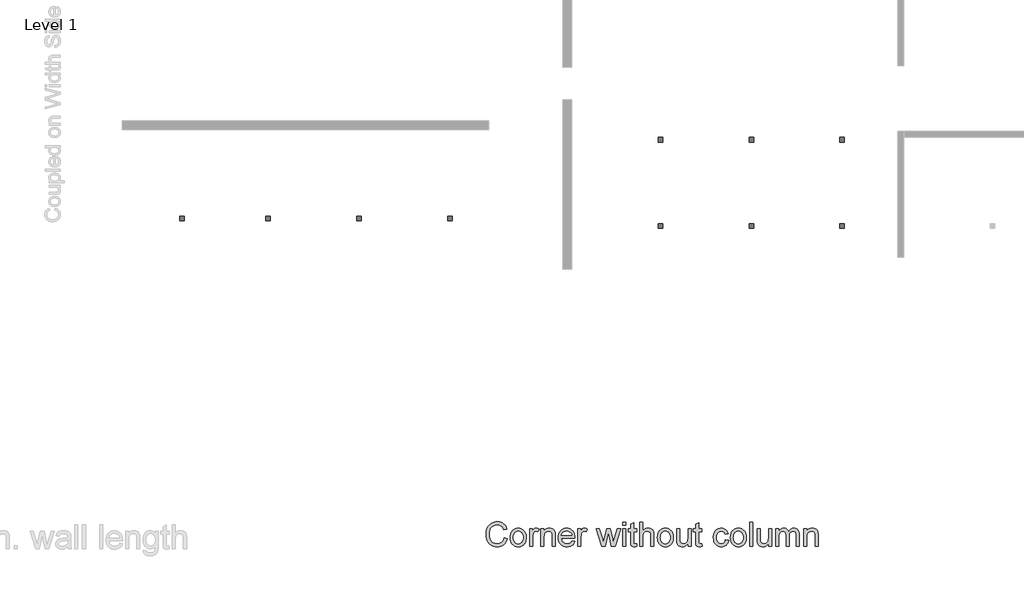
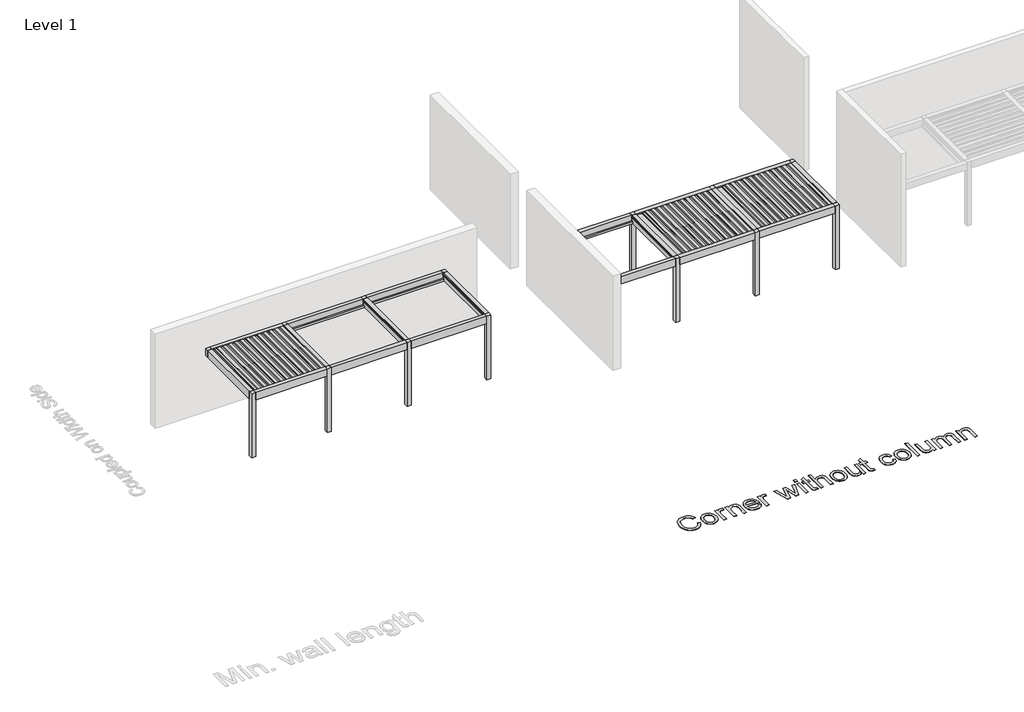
# One storey, part 62 of 80: 3 proxies.
"""IFC4 building model written with IfcOpenShell, lengths in millimetres."""

from ifc_helpers import new_model, si_unit, origin, origin_with_axes, place, context, project, spatial, polyline, outline, extrude, transform, mapped, element, save
from components import generic_models_a30ff683, generic_models_b130cb2a

model = new_model("IFC4")

# Units and contexts
model_context = context("Model", 3, world=origin())
ifc_project = project(units=[si_unit("LENGTHUNIT", "METRE", prefix="MILLI")], contexts=[model_context])

# Site, building, storey
site = spatial("IfcSite", under=ifc_project)
building = spatial("IfcBuilding", under=site)
storey = spatial("IfcBuildingStorey", under=building, Name="Level 1", Elevation=0.0)

# Proxies
placement = place(None, origin())
generic_models_shape = generic_models_a30ff683(model_context)
element("IfcBuildingElementProxy", 1, Name="Renson_Amani_Patio_Cover : Renson_Amani_Patio_Cover", ObjectType="Renson_Amani_Patio_Cover : Renson_Amani_Patio_Cover", at=placement, inside=storey, context=model_context, shape_type="MappedRepresentation", body=[
    mapped(generic_models_shape, transform((177753.165057, 45234.0685101, 0.0), x_axis=(1.0, 0.0, 0.0), y_axis=(0.0, 1.0, 0.0), z_axis=(0.0, 0.0, 1.0))),
])
generic_models_2_shape = generic_models_b130cb2a(model_context)
element("IfcBuildingElementProxy", 2, Name="Renson_Amani_Patio_Cover : Renson_Amani_Patio_Cover", ObjectType="Renson_Amani_Patio_Cover : Renson_Amani_Patio_Cover", at=placement, inside=storey, context=model_context, shape_type="MappedRepresentation", body=[
    mapped(generic_models_2_shape, transform((190710.3328818, 44984.0685101, 0.0), x_axis=(1.0, 0.0, 0.0), y_axis=(0.0, 1.0, 0.0), z_axis=(0.0, 0.0, 1.0))),
])
element("IfcBuildingElementProxy", 3, Name="800mm Arial", ObjectType="800mm Arial", at=placement, inside=storey, context=model_context, shape_type="SweptSolid", body=[
    extrude(outline(polyline([(186974.516614, 33265.2752988), (187074.4402013, 33239.513749), (187054.6677238, 33177.3725483), (187028.3328819, 33123.0744711), (186995.4356755, 33076.6195172), (186955.9761046, 33038.0076867), (186910.8446016, 33007.6537015), (186860.9315987, 32985.9722834), (186806.2370961, 32972.9634326), (186746.7610937, 32968.627149), (186685.8274657, 32971.9083313), (186630.8585148, 32981.751878), (186581.8542409, 32998.1577893), (186538.814644, 33021.126065), (186501.1481355, 33050.3151695), (186468.2631268, 33085.3835672), (186440.1596179, 33126.3312579), (186416.8376087, 33173.1582418), (186398.5227569, 33223.8396999), (186385.4407198, 33276.3508136), (186377.5914976, 33330.6915828), (186374.9750902, 33386.8620076), (186377.9330333, 33447.1308607), (186386.8068626, 33503.4232625), (186401.5965782, 33555.7392129), (186422.3021799, 33604.078712), (186448.4601551, 33647.6428101), (186479.6069911, 33685.6325577), (186515.7426878, 33718.0479549), (186556.8672452, 33744.8890015), (186601.5840263, 33765.9361389), (186648.4963941, 33780.9698085), (186697.6043485, 33789.9900103), (186748.9078895, 33792.9967442), (186806.0602294, 33789.1056768), (186858.4676626, 33777.4324745), (186906.1301891, 33757.9771374), (186949.047809, 33730.7396654), (186986.5130554, 33696.4397231), (187017.8184615, 33655.7969749), (187042.9640273, 33608.8114209), (187061.9497528, 33555.4830611), (186962.0261656, 33531.6731438), (186946.291128, 33570.9680457), (186927.3846875, 33604.5422247), (186905.3068441, 33632.3956807), (186880.0575978, 33654.5284138), (186851.4905762, 33671.3917389), (186819.4594067, 33683.4369711), (186783.9640895, 33690.6641105), (186745.0046244, 33693.0731569), (186700.1780639, 33690.4018598), (186659.1815824, 33682.3879686), (186622.0151797, 33669.0314832), (186588.678856, 33650.3324037), (186559.5934319, 33627.1323716), (186535.1797283, 33600.2730285), (186515.4377452, 33569.7543742), (186500.3674825, 33535.576409), (186489.2248803, 33499.288241), (186481.2658787, 33462.4389786), (186476.4904778, 33425.0286219), (186474.8986775, 33387.0571708), (186476.7832227, 33339.3397546), (186482.4368583, 33294.7449505), (186491.8595843, 33253.2727585), (186505.0514006, 33214.9231786), (186522.2257672, 33180.4585673), (186543.5961438, 33150.6412811), (186569.1625304, 33125.4713198), (186598.924927, 33104.9486836), (186631.4379057, 33089.0245817), (186665.2560387, 33077.6502232), (186700.379326, 33070.825608), (186736.8077676, 33068.5507363), (186780.2498887, 33071.648953), (186820.2156643, 33080.9436031), (186856.7050944, 33096.4346866), (186889.718179, 33118.1222035), (186918.4742651, 33145.9085721), (186942.1926996, 33179.6962109), (186960.8734826, 33219.4851198), (186974.516614, 33265.2752988)])), origin_with_axes(), (0.0, 0.0, 1.0), 5.0),
    extrude(outline(polyline([(187174.3637885, 33274.6431351), (187179.7673712, 33350.6714212), (187186.5218495, 33384.7426566), (187195.9781192, 33416.1852868), (187208.1361802, 33444.999312), (187222.9960325, 33471.184732), (187240.5576762, 33494.741547), (187260.8211111, 33515.6697568), (187298.9023416, 33544.1026037), (187340.9356279, 33564.4117801), (187386.9209702, 33576.5972859), (187436.8583684, 33580.6591212), (187491.9858895, 33575.7129524), (187541.831805, 33560.8744461), (187586.3961148, 33536.1436022), (187625.678819, 33501.5204207), (187657.7404828, 33458.1758812), (187680.6416711, 33407.2809633), (187694.3823842, 33348.8356668), (187698.9626218, 33282.8399919), (187696.937803, 33229.3530619), (187690.8633467, 33181.8917975), (187680.7392528, 33140.4561986), (187666.5655213, 33105.0462653), (187648.5190189, 33074.4605237), (187626.7766124, 33047.4975), (187601.3383017, 33024.1571943), (187572.2040868, 33004.4396066), (187540.5083542, 32988.7716564), (187507.3854902, 32977.5802634), (187472.835495, 32970.8654276), (187436.8583684, 32968.627149), (187380.9257989, 32973.5550213), (187330.6163707, 32988.3386379), (187285.9300839, 33012.9779991), (187246.8669383, 33047.4731046), (187215.1468103, 33091.2384649), (187192.489576, 33143.68859), (187178.8952354, 33204.8234801), (187174.3637885, 33274.6431351)]), holes=[polyline([(187274.2873758, 33274.8382984), (187277.1782316, 33226.3707234), (187285.8507988, 33184.4045244), (187300.3050775, 33148.9397014), (187320.5410676, 33119.9762544), (187345.1560333, 33097.4775902), (187372.7472387, 33081.4071158), (187403.3146837, 33071.7648312), (187436.8583684, 33068.5507363), (187470.2312853, 33071.7831278), (187500.6767533, 33081.4803021), (187528.1947725, 33097.6422592), (187552.7853428, 33120.2689993), (187573.0213329, 33149.5190923), (187587.4756116, 33185.5511086), (187596.1481788, 33228.3650479), (187599.0390345, 33277.9609105), (187596.1298823, 33324.8915748), (187587.4024254, 33365.7599805), (187572.8566639, 33400.5661275), (187552.4925979, 33429.3100158), (187527.8105448, 33451.80868), (187500.3108222, 33467.8791544), (187469.9934301, 33477.521439), (187436.8583684, 33480.7355339), (187403.3146837, 33477.5336367), (187372.7472387, 33467.9279452), (187345.1560333, 33451.9184593), (187320.5410676, 33429.5051791), (187300.3050775, 33400.627116), (187285.8507988, 33365.2232815), (187277.1782316, 33323.2936756), (187274.2873758, 33274.8382984)])]), origin_with_axes(), (0.0, 0.0, 1.0), 5.0),
    extrude(outline(polyline([(187811.3766575, 32981.1175974), (187811.3766575, 33568.1686728), (187898.8097964, 33568.1686728), (187898.8097964, 33481.3210237), (187931.1093154, 33531.6731438), (187946.307654, 33549.0914645), (187960.871712, 33561.3379588), (187990.7316902, 33575.8288306), (188023.323954, 33580.6591212), (188048.1096876, 33578.731884), (188073.0905844, 33572.9501726), (188098.2666445, 33563.3139868), (188123.6378678, 33549.8233267), (188090.264951, 33460.243392), (188055.1355648, 33475.6124984), (188020.0061787, 33480.7355339), (187990.1705958, 33475.8076617), (187963.5064159, 33461.024045), (187941.9652715, 33437.5068726), (187927.4987951, 33406.3783332), (187915.3498824, 33350.5616419), (187911.3002448, 33289.6707059), (187911.3002448, 32981.1175974), (187811.3766575, 32981.1175974)])), origin_with_axes(), (0.0, 0.0, 1.0), 5.0),
    extrude(outline(polyline([(188186.0901099, 32981.1175974), (188186.0901099, 33568.1686728), (188286.0136972, 33568.1686728), (188286.0136972, 33486.2001051), (188302.4988935, 33508.338937), (188320.7283614, 33527.5259246), (188340.7021009, 33543.761068), (188362.4201121, 33557.0443672), (188385.8823948, 33567.3758221), (188411.0889491, 33574.7554327), (188466.7348726, 33580.6591212), (188515.9891995, 33575.9020168), (188561.0963071, 33561.6307037), (188598.7140248, 33539.6260465), (188625.5001817, 33511.66891), (188643.67476, 33477.8324805), (188655.4577416, 33438.189944), (188659.4097975, 33400.2794814), (188660.7271495, 33341.5841321), (188660.7271495, 32981.1175974), (188560.8035622, 32981.1175974), (188560.8035622, 33328.1178674), (188557.9249042, 33379.7873395), (188549.2889301, 33416.5268225), (188533.3587293, 33442.8494667), (188508.5973911, 33463.2684225), (188476.8589666, 33476.368756), (188439.9975065, 33480.7355339), (188409.655719, 33478.2837955), (188381.472925, 33470.9285803), (188355.4491245, 33458.6698882), (188331.5843176, 33441.5077194), (188311.6471711, 33417.4904411), (188297.4063523, 33384.6664209), (188288.861861, 33343.0356588), (188286.0136972, 33292.5981547), (188286.0136972, 32981.1175974), (188186.0901099, 32981.1175974)])), origin_with_axes(), (0.0, 0.0, 1.0), 5.0),
    extrude(outline(polyline([(189209.1359001, 33155.9838752), (189307.1078548, 33143.4934268), (189292.0863829, 33104.2534145), (189271.8077008, 33069.672925), (189246.2718085, 33039.7519583), (189215.4787059, 33014.4905143), (189179.7455335, 32994.425292), (189139.3894313, 32980.0929903), (189094.4103996, 32971.4936094), (189044.8084382, 32968.627149), (188982.8075112, 32973.5733178), (188927.5641119, 32988.4118241), (188879.0782404, 33013.1426681), (188837.3498966, 33047.7658495), (188803.7940142, 33091.31775), (188779.8255268, 33142.8347508), (188765.4444343, 33202.316852), (188760.6507368, 33269.7640537), (188765.4932251, 33339.4983248), (188780.02069, 33400.9625528), (188804.2331315, 33454.1567379), (188819.9712185, 33477.6525643), (188838.1305496, 33499.08088), (188879.7491141, 33534.7713605), (188927.1249946, 33560.2645609), (188980.2581911, 33575.5604811), (189039.1487037, 33580.6591212), (189096.1424735, 33575.5726788), (189147.6838697, 33560.3133517), (189193.7728925, 33534.8811399), (189234.4095418, 33499.2760433), (189267.5811965, 33454.4494828), (189291.2752356, 33401.3528794), (189305.4916591, 33339.9862329), (189310.2304669, 33270.3495435), (189309.6449772, 33243.4170141), (188860.5743241, 33243.4170141), (188866.3621344, 33203.5427213), (188877.8706677, 33168.6206961), (188895.0999239, 33138.6509385), (188918.0499031, 33113.6334486), (188945.4520441, 33093.909762), (188976.0377857, 33079.8214144), (189009.8071279, 33071.3684058), (189046.7600707, 33068.5507363), (189099.9420581, 33073.7713534), (189144.7320255, 33089.4332048), (189163.9800016, 33101.4235473), (189181.1299728, 33116.5121066), (189196.181939, 33134.6988825), (189209.1359001, 33155.9838752)]), holes=[polyline([(188860.5743241, 33343.3406014), (189210.3068796, 33343.3406014), (189205.1716465, 33371.6148782), (189196.7918241, 33396.1322622), (189185.1674127, 33416.8927536), (189170.2984121, 33433.8963524), (189143.0487424, 33454.3884943), (189112.04218, 33469.0257385), (189077.278725, 33477.8080851), (189038.7583772, 33480.7355339), (189003.6228922, 33478.3996737), (188971.4026584, 33471.392093), (188942.0976756, 33459.7127919), (188915.7079441, 33443.3617703), (188893.5630133, 33423.0952859), (188876.9924331, 33399.6695963), (188865.9962033, 33373.0847014), (188860.5743241, 33343.3406014)])]), origin_with_axes(), (0.0, 0.0, 1.0), 5.0),
    extrude(outline(polyline([(189410.1540542, 32981.1175974), (189410.1540542, 33568.1686728), (189497.5871931, 33568.1686728), (189497.5871931, 33481.3210237), (189529.886712, 33531.6731438), (189545.0850506, 33549.0914645), (189559.6491086, 33561.3379588), (189589.5090869, 33575.8288306), (189622.1013507, 33580.6591212), (189646.8870843, 33578.731884), (189671.8679811, 33572.9501726), (189697.0440412, 33563.3139868), (189722.4152645, 33549.8233267), (189689.0423477, 33460.243392), (189653.9129615, 33475.6124984), (189618.7835753, 33480.7355339), (189588.9479925, 33475.8076617), (189562.2838126, 33461.024045), (189540.7426682, 33437.5068726), (189526.2761918, 33406.3783332), (189514.1272791, 33350.5616419), (189510.0776415, 33289.6707059), (189510.0776415, 32981.1175974), (189410.1540542, 32981.1175974)])), origin_with_axes(), (0.0, 0.0, 1.0), 5.0),
    extrude(outline(polyline([(190194.5151818, 32981.1175974), (190015.9408022, 33568.1686728), (190119.7676546, 33568.1686728), (190221.0573847, 33225.6571577), (190251.3076894, 33103.289796), (190276.093423, 33221.1684029), (190356.6958479, 33568.1686728), (190475.7454343, 33568.1686728), (190555.9575327, 33222.1442191), (190578.0109807, 33115.3899179), (190609.6274282, 33227.9991168), (190711.1123216, 33568.1686728), (190815.3295005, 33568.1686728), (190635.3889781, 32981.1175974), (190514.5829224, 32981.1175974), (190437.8837626, 33325.3855818), (190415.6351514, 33432.7253728), (190316.6873803, 32981.1175974), (190194.5151818, 32981.1175974)])), origin_with_axes(), (0.0, 0.0, 1.0), 5.0),
    extrude(outline(polyline([(190884.0269668, 32981.1175974), (190884.0269668, 33568.1686728), (190983.9505541, 33568.1686728), (190983.9505541, 32981.1175974), (190884.0269668, 32981.1175974)])), origin_with_axes(), (0.0, 0.0, 1.0), 5.0),
    extrude(outline(polyline([(190884.0269668, 33680.5827085), (190884.0269668, 33780.5062958), (190983.9505541, 33780.5062958), (190983.9505541, 33680.5827085), (190884.0269668, 33680.5827085)])), origin_with_axes(), (0.0, 0.0, 1.0), 5.0),
    extrude(outline(polyline([(191346.173558, 33064.4523079), (191358.6640064, 32978.1901486), (191319.0946562, 32971.0178989), (191283.9164792, 32968.627149), (191235.955109, 32972.7743682), (191200.1914422, 32985.2160258), (191174.9178005, 33004.3908158), (191158.4265053, 33028.737432), (191149.3514139, 33070.5511597), (191146.3263834, 33142.127284), (191146.3263834, 33468.2450855), (191071.383693, 33468.2450855), (191071.383693, 33568.1686728), (191146.3263834, 33568.1686728), (191146.3263834, 33710.8330132), (191246.2499707, 33769.5771534), (191246.2499707, 33568.1686728), (191346.173558, 33568.1686728), (191346.173558, 33468.2450855), (191246.2499707, 33468.2450855), (191246.2499707, 33145.0547328), (191247.5673227, 33112.1697241), (191251.5193787, 33093.5316331), (191258.4232788, 33083.212376), (191268.5961636, 33075.2838687), (191283.0138492, 33070.2340194), (191302.6521518, 33068.5507363), (191346.173558, 33064.4523079)])), origin_with_axes(), (0.0, 0.0, 1.0), 5.0),
    extrude(outline(polyline([(191446.0971453, 32981.1175974), (191446.0971453, 33780.5062958), (191546.0207326, 33780.5062958), (191546.0207326, 33486.5904316), (191582.7236225, 33527.7454833), (191623.9396627, 33557.1419488), (191669.6688533, 33574.7798281), (191719.9111941, 33580.6591212), (191751.1495128, 33579.0551232), (191780.2654311, 33574.2431291), (191807.258949, 33566.2231391), (191832.1300665, 33554.995153), (191854.244503, 33540.9372997), (191872.9679779, 33524.4277079), (191888.3004913, 33505.4663778), (191900.242043, 33484.0533093), (191909.2073551, 33458.8650515), (191915.6111495, 33428.5781536), (191920.734185, 33352.7084377), (191920.734185, 32981.1175974), (191820.8105977, 32981.1175974), (191820.8105977, 33342.3647851), (191818.822372, 33376.103633), (191812.857695, 33404.9146088), (191802.9165666, 33428.7977123), (191788.9989869, 33447.7529436), (191771.4342938, 33462.1828268), (191750.5518253, 33472.4898863), (191726.3515815, 33478.674122), (191698.8335624, 33480.7355339), (191656.6051128, 33475.1733811), (191616.9625763, 33458.4869227), (191599.1661269, 33446.3746031), (191584.1263584, 33432.2862555), (191571.843271, 33416.2218799), (191562.3168645, 33398.1814764), (191550.0947656, 33352.8548101), (191546.0207326, 33292.9884812), (191546.0207326, 32981.1175974), (191446.0971453, 32981.1175974)])), origin_with_axes(), (0.0, 0.0, 1.0), 5.0),
    extrude(outline(polyline([(192033.1482207, 33274.6431351), (192038.5518033, 33350.6714212), (192045.3062816, 33384.7426566), (192054.7625513, 33416.1852868), (192066.9206123, 33444.999312), (192081.7804646, 33471.184732), (192099.3421083, 33494.741547), (192119.6055433, 33515.6697568), (192157.6867737, 33544.1026037), (192199.72006, 33564.4117801), (192245.7054023, 33576.5972859), (192295.6428006, 33580.6591212), (192350.7703216, 33575.7129524), (192400.6162371, 33560.8744461), (192445.1805469, 33536.1436022), (192484.4632512, 33501.5204207), (192516.5249149, 33458.1758812), (192539.4261032, 33407.2809633), (192553.1668163, 33348.8356668), (192557.7470539, 33282.8399919), (192555.7222352, 33229.3530619), (192549.6477788, 33181.8917975), (192539.5236849, 33140.4561986), (192525.3499534, 33105.0462653), (192507.303451, 33074.4605237), (192485.5610445, 33047.4975), (192460.1227338, 33024.1571943), (192430.9885189, 33004.4396066), (192399.2927863, 32988.7716564), (192366.1699224, 32977.5802634), (192331.6199271, 32970.8654276), (192295.6428006, 32968.627149), (192239.710231, 32973.5550213), (192189.4008028, 32988.3386379), (192144.714516, 33012.9779991), (192105.6513704, 33047.4731046), (192073.9312424, 33091.2384649), (192051.2740081, 33143.68859), (192037.6796675, 33204.8234801), (192033.1482207, 33274.6431351)]), holes=[polyline([(192133.071808, 33274.8382984), (192135.9626637, 33226.3707234), (192144.6352309, 33184.4045244), (192159.0895096, 33148.9397014), (192179.3254997, 33119.9762544), (192203.9404654, 33097.4775902), (192231.5316708, 33081.4071158), (192262.0991159, 33071.7648312), (192295.6428006, 33068.5507363), (192329.0157174, 33071.7831278), (192359.4611854, 33081.4803021), (192386.9792046, 33097.6422592), (192411.5697749, 33120.2689993), (192431.805765, 33149.5190923), (192446.2600437, 33185.5511086), (192454.9326109, 33228.3650479), (192457.8234667, 33277.9609105), (192454.9143144, 33324.8915748), (192446.1868575, 33365.7599805), (192431.641096, 33400.5661275), (192411.27703, 33429.3100158), (192386.5949769, 33451.80868), (192359.0952543, 33467.8791544), (192328.7778622, 33477.521439), (192295.6428006, 33480.7355339), (192262.0991159, 33477.5336367), (192231.5316708, 33467.9279452), (192203.9404654, 33451.9184593), (192179.3254997, 33429.5051791), (192159.0895096, 33400.627116), (192144.6352309, 33365.2232815), (192135.9626637, 33323.2936756), (192133.071808, 33274.8382984)])]), origin_with_axes(), (0.0, 0.0, 1.0), 5.0),
    extrude(outline(polyline([(193044.874542, 32981.1175974), (193044.874542, 33082.017001), (193027.5416053, 33055.4412545), (193008.7205487, 33032.4089408), (192988.4113724, 33012.92006), (192966.6140762, 32996.974612), (192943.3286601, 32984.572597), (192918.5551243, 32975.7140148), (192892.2934686, 32970.3988655), (192864.5436931, 32968.627149), (192815.874856, 32973.6038121), (192770.5725851, 32988.5338012), (192732.5645409, 33010.9775757), (192705.7783839, 33038.4955948), (192687.7501781, 33071.9173025), (192676.0159873, 33112.0721425), (192671.6248141, 33149.9338143), (192670.1610896, 33204.9698526), (192670.1610896, 33568.1686728), (192770.0846769, 33568.1686728), (192770.0846769, 33252.0041974), (192771.5971922, 33188.7713023), (192776.1347379, 33150.1289775), (192782.1177115, 33132.1190683), (192790.6987959, 33116.1461755), (192801.8779912, 33102.2102992), (192815.6552973, 33090.3114394), (192831.6159924, 33080.7911318), (192849.3453545, 33073.9909121), (192890.1100796, 33068.5507363), (192933.2167639, 33074.1128891), (192973.5423718, 33090.7993476), (192991.5888741, 33102.9299637), (193006.7933116, 33117.073201), (193019.1556841, 33133.2290593), (193028.6759917, 33151.3975387), (193040.8249044, 33198.4074881), (193044.874542, 33262.7381765), (193044.874542, 33568.1686728), (193144.7981293, 33568.1686728), (193144.7981293, 32981.1175974), (193044.874542, 32981.1175974)])), origin_with_axes(), (0.0, 0.0, 1.0), 5.0),
    extrude(outline(polyline([(193494.5306848, 33064.4523079), (193507.0211332, 32978.1901486), (193467.451783, 32971.0178989), (193432.273606, 32968.627149), (193384.3122357, 32972.7743682), (193348.548569, 32985.2160258), (193323.2749273, 33004.3908158), (193306.7836321, 33028.737432), (193297.7085407, 33070.5511597), (193294.6835102, 33142.127284), (193294.6835102, 33468.2450855), (193219.7408198, 33468.2450855), (193219.7408198, 33568.1686728), (193294.6835102, 33568.1686728), (193294.6835102, 33710.8330132), (193394.6070975, 33769.5771534), (193394.6070975, 33568.1686728), (193494.5306848, 33568.1686728), (193494.5306848, 33468.2450855), (193394.6070975, 33468.2450855), (193394.6070975, 33145.0547328), (193395.9244495, 33112.1697241), (193399.8765054, 33093.5316331), (193406.7804056, 33083.212376), (193416.9532904, 33075.2838687), (193431.370976, 33070.2340194), (193451.0092786, 33068.5507363), (193494.5306848, 33064.4523079)])), origin_with_axes(), (0.0, 0.0, 1.0), 5.0),
    extrude(outline(polyline([(194281.4289347, 33193.4552204), (194381.352522, 33180.964772), (194370.4843682, 33133.814549), (194353.4929672, 33092.0923041), (194330.378319, 33055.7980373), (194301.1404236, 33024.9317485), (194267.0112492, 33000.2984862), (194229.2227636, 32982.7032989), (194187.7749671, 32972.1461865), (194142.6678594, 32968.627149), (194086.6255106, 32973.5367247), (194036.3770709, 32988.2654517), (193991.9225404, 33012.8133301), (193953.2619191, 33047.1803597), (193921.9687107, 33090.7200625), (193899.6164189, 33142.78596), (193886.2050439, 33203.3780523), (193881.7345856, 33272.4963393), (193883.6435262, 33318.4389896), (193889.370348, 33361.417598), (193898.915051, 33401.4321644), (193912.2776352, 33438.4826889), (193929.5495834, 33471.8251115), (193950.8223784, 33500.7153723), (193976.0960201, 33525.1534713), (194005.3705085, 33545.1394085), (194037.3223929, 33560.6792828), (194070.6282224, 33571.779193), (194105.287997, 33578.4391392), (194141.3017166, 33580.6591212), (194185.6342701, 33577.6096953), (194225.7342204, 33568.4614177), (194261.6015677, 33553.2142883), (194293.2363118, 33531.8683071), (194320.1017538, 33504.9113823), (194341.6611948, 33472.831422), (194357.9146347, 33435.6284263), (194368.8620736, 33393.302395), (194268.9384863, 33380.8119466), (194261.1380549, 33404.1522523), (194250.8126989, 33424.406539), (194237.9624182, 33441.5748067), (194222.5872129, 33455.6570555), (194205.0774095, 33466.6288898), (194185.8233345, 33474.4659143), (194164.8249879, 33479.168129), (194142.0823697, 33480.7355339), (194108.1300619, 33477.6495149), (194077.5077272, 33468.3914579), (194050.2153655, 33452.961363), (194026.252977, 33431.35923), (194006.7427502, 33403.0849533), (193992.8068739, 33367.6384268), (193984.4453481, 33325.0196507), (193981.6581729, 33275.2286249), (193984.3843596, 33224.6874403), (193992.5629198, 33181.5746572), (194006.1938535, 33145.8902755), (194025.2771607, 33117.6342953), (194048.7638388, 33096.1602383), (194075.6048854, 33080.8216261), (194105.8003005, 33071.6184588), (194139.3500841, 33068.5507363), (194166.3862939, 33070.4657758), (194191.0927424, 33076.2108941), (194213.4694295, 33085.7860914), (194233.5163553, 33099.1913676), (194250.6724253, 33116.5730951), (194264.3765452, 33138.0776464), (194274.628715, 33163.7050215), (194281.4289347, 33193.4552204)])), origin_with_axes(), (0.0, 0.0, 1.0), 5.0),
    extrude(outline(polyline([(194443.8047641, 33274.6431351), (194449.2083468, 33350.6714212), (194455.9628251, 33384.7426566), (194465.4190947, 33416.1852868), (194477.5771557, 33444.999312), (194492.4370081, 33471.184732), (194509.9986517, 33494.741547), (194530.2620867, 33515.6697568), (194568.3433171, 33544.1026037), (194610.3766035, 33564.4117801), (194656.3619458, 33576.5972859), (194706.299344, 33580.6591212), (194761.4268651, 33575.7129524), (194811.2727805, 33560.8744461), (194855.8370904, 33536.1436022), (194895.1197946, 33501.5204207), (194927.1814583, 33458.1758812), (194950.0826467, 33407.2809633), (194963.8233597, 33348.8356668), (194968.4035974, 33282.8399919), (194966.3787786, 33229.3530619), (194960.3043222, 33181.8917975), (194950.1802283, 33140.4561986), (194936.0064968, 33105.0462653), (194917.9599944, 33074.4605237), (194896.2175879, 33047.4975), (194870.7792772, 33024.1571943), (194841.6450623, 33004.4396066), (194809.9493297, 32988.7716564), (194776.8264658, 32977.5802634), (194742.2764705, 32970.8654276), (194706.299344, 32968.627149), (194650.3667745, 32973.5550213), (194600.0573463, 32988.3386379), (194555.3710594, 33012.9779991), (194516.3079139, 33047.4731046), (194484.5877858, 33091.2384649), (194461.9305515, 33143.68859), (194448.336211, 33204.8234801), (194443.8047641, 33274.6431351)]), holes=[polyline([(194543.7283514, 33274.8382984), (194546.6192071, 33226.3707234), (194555.2917743, 33184.4045244), (194569.746053, 33148.9397014), (194589.9820432, 33119.9762544), (194614.5970089, 33097.4775902), (194642.1882143, 33081.4071158), (194672.7556593, 33071.7648312), (194706.299344, 33068.5507363), (194739.6722608, 33071.7831278), (194770.1177288, 33081.4803021), (194797.635748, 33097.6422592), (194822.2263183, 33120.2689993), (194842.4623085, 33149.5190923), (194856.9165871, 33185.5511086), (194865.5891544, 33228.3650479), (194868.4800101, 33277.9609105), (194865.5708578, 33324.8915748), (194856.8434009, 33365.7599805), (194842.2976395, 33400.5661275), (194821.9335734, 33429.3100158), (194797.2515203, 33451.80868), (194769.7517977, 33467.8791544), (194739.4344056, 33477.521439), (194706.299344, 33480.7355339), (194672.7556593, 33477.5336367), (194642.1882143, 33467.9279452), (194614.5970089, 33451.9184593), (194589.9820432, 33429.5051791), (194569.746053, 33400.627116), (194555.2917743, 33365.2232815), (194546.6192071, 33323.2936756), (194543.7283514, 33274.8382984)])]), origin_with_axes(), (0.0, 0.0, 1.0), 5.0),
    extrude(outline(polyline([(195080.8176331, 32981.1175974), (195080.8176331, 33780.5062958), (195180.7412204, 33780.5062958), (195180.7412204, 32981.1175974), (195080.8176331, 32981.1175974)])), origin_with_axes(), (0.0, 0.0, 1.0), 5.0),
    extrude(outline(polyline([(195705.3400537, 32981.1175974), (195705.3400537, 33082.017001), (195688.007117, 33055.4412545), (195669.1860604, 33032.4089408), (195648.876884, 33012.92006), (195627.0795878, 32996.974612), (195603.7941718, 32984.572597), (195579.0206359, 32975.7140148), (195552.7589802, 32970.3988655), (195525.0092047, 32968.627149), (195476.3403677, 32973.6038121), (195431.0380968, 32988.5338012), (195393.0300526, 33010.9775757), (195366.2438956, 33038.4955948), (195348.2156898, 33071.9173025), (195336.481499, 33112.0721425), (195332.0903257, 33149.9338143), (195330.6266013, 33204.9698526), (195330.6266013, 33568.1686728), (195430.5501886, 33568.1686728), (195430.5501886, 33252.0041974), (195432.0627038, 33188.7713023), (195436.6002496, 33150.1289775), (195442.5832231, 33132.1190683), (195451.1643076, 33116.1461755), (195462.3435029, 33102.2102992), (195476.120809, 33090.3114394), (195492.0815041, 33080.7911318), (195509.8108661, 33073.9909121), (195550.5755913, 33068.5507363), (195593.6822756, 33074.1128891), (195634.0078834, 33090.7993476), (195652.0543858, 33102.9299637), (195667.2588233, 33117.073201), (195679.6211958, 33133.2290593), (195689.1415034, 33151.3975387), (195701.2904161, 33198.4074881), (195705.3400537, 33262.7381765), (195705.3400537, 33568.1686728), (195805.263641, 33568.1686728), (195805.263641, 32981.1175974), (195705.3400537, 32981.1175974)])), origin_with_axes(), (0.0, 0.0, 1.0), 5.0),
    extrude(outline(polyline([(195942.6585735, 32981.1175974), (195942.6585735, 33568.1686728), (196042.5821608, 33568.1686728), (196042.5821608, 33471.5628609), (196072.6373023, 33515.9381063), (196090.8850667, 33534.5213076), (196111.279627, 33550.7015613), (196133.4916452, 33563.8079938), (196157.1917831, 33573.1697312), (196182.3800409, 33578.7867737), (196209.0564185, 33580.6591212), (196238.2211276, 33578.7501806), (196264.6291558, 33573.0233588), (196288.2805029, 33563.4786558), (196309.1751691, 33550.1160716), (196327.2521657, 33533.313735), (196342.4505043, 33513.4497748), (196354.7701848, 33490.524191), (196364.2112074, 33464.5369836), (196400.6335501, 33515.3404188), (196420.7658598, 33535.2989112), (196442.1789283, 33551.6285868), (196464.8727557, 33564.3294456), (196488.847342, 33573.4014876), (196514.1026872, 33578.8447128), (196540.6387912, 33580.6591212), (196580.6411599, 33577.6401896), (196615.7522495, 33568.5833947), (196645.97206, 33553.4887366), (196671.3005914, 33532.3562152), (196691.3231217, 33504.9418766), (196705.6249291, 33471.0017665), (196714.2060135, 33430.535885), (196717.066375, 33383.5442322), (196717.066375, 32981.1175974), (196617.1427877, 32981.1175974), (196617.1427877, 33340.6083158), (196614.825224, 33390.4481324), (196607.872533, 33424.0406079), (196594.8453857, 33447.0454768), (196574.3044529, 33465.1224734), (196547.8842271, 33476.8322688), (196517.2192004, 33480.7355339), (196488.9022317, 33478.2350047), (196463.0857922, 33470.733417), (196439.7698819, 33458.2307709), (196418.9545008, 33440.7270663), (196401.8350239, 33417.7099998), (196389.6068261, 33388.6672677), (196382.2699074, 33353.59887), (196379.8242679, 33312.5048069), (196379.8242679, 32981.1175974), (196279.9006806, 32981.1175974), (196279.9006806, 33351.7326214), (196278.4552527, 33382.0073216), (196274.1189691, 33408.2323841), (196266.8918298, 33430.4078092), (196256.7738347, 33448.5335966), (196243.3624597, 33462.6219442), (196226.2551805, 33472.6850496), (196205.4519971, 33478.7229128), (196180.9529096, 33480.7355339), (196142.4569573, 33475.3685444), (196106.9860354, 33459.2675757), (196091.1778116, 33447.2894308), (196077.7115469, 33432.8229544), (196066.5872413, 33415.8681465), (196057.8048948, 33396.4250071), (196046.3878443, 33345.9265145), (196042.5821608, 33277.1802574), (196042.5821608, 32981.1175974), (195942.6585735, 32981.1175974)])), origin_with_axes(), (0.0, 0.0, 1.0), 5.0),
    extrude(outline(polyline([(196866.9517559, 32981.1175974), (196866.9517559, 33568.1686728), (196966.8753432, 33568.1686728), (196966.8753432, 33486.2001051), (196983.3605396, 33508.338937), (197001.5900075, 33527.5259246), (197021.563747, 33543.761068), (197043.2817581, 33557.0443672), (197066.7440409, 33567.3758221), (197091.9505952, 33574.7554327), (197147.5965187, 33580.6591212), (197196.8508455, 33575.9020168), (197241.9579532, 33561.6307037), (197279.5756709, 33539.6260465), (197306.3618278, 33511.66891), (197324.5364061, 33477.8324805), (197336.3193877, 33438.189944), (197340.2714436, 33400.2794814), (197341.5887956, 33341.5841321), (197341.5887956, 32981.1175974), (197241.6652083, 32981.1175974), (197241.6652083, 33328.1178674), (197238.7865503, 33379.7873395), (197230.1505762, 33416.5268225), (197214.2203754, 33442.8494667), (197189.4590372, 33463.2684225), (197157.7206126, 33476.368756), (197120.8591526, 33480.7355339), (197090.517365, 33478.2837955), (197062.334571, 33470.9285803), (197036.3107706, 33458.6698882), (197012.4459636, 33441.5077194), (196992.5088172, 33417.4904411), (196978.2679983, 33384.6664209), (196969.723507, 33343.0356588), (196966.8753432, 33292.5981547), (196966.8753432, 32981.1175974), (196866.9517559, 32981.1175974)])), origin_with_axes(), (0.0, 0.0, 1.0), 5.0),
])

save(model, "model.ifc")
